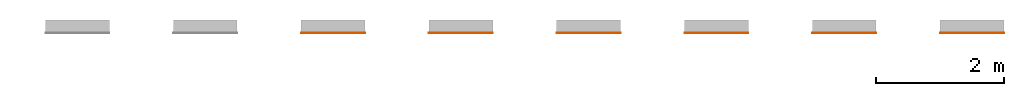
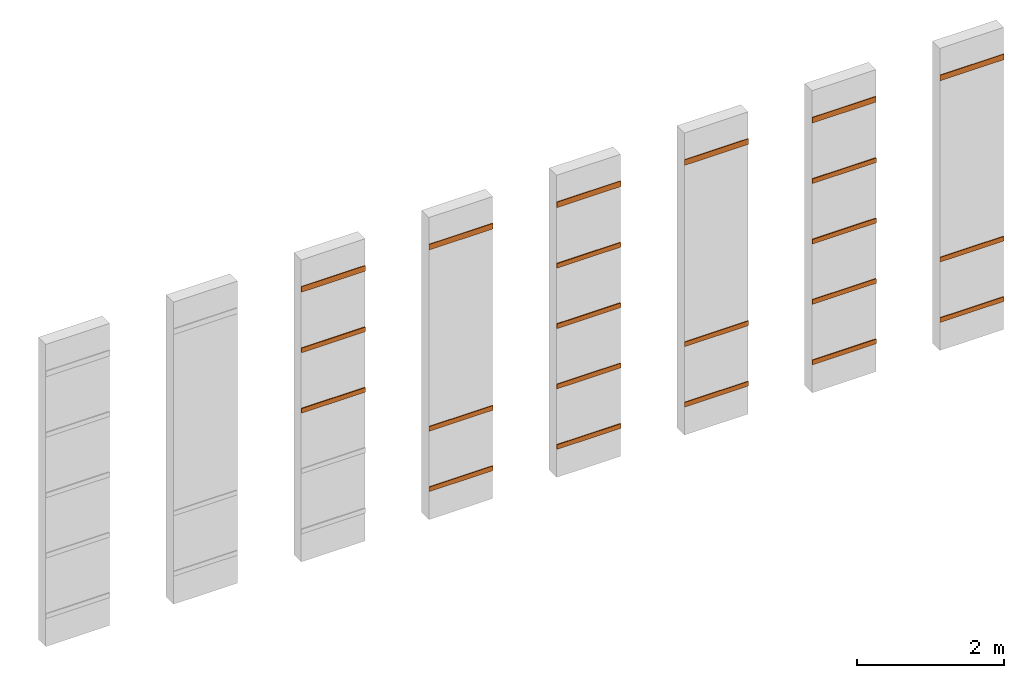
# One storey, part 3 of 3: 22 proxies.
"""IFC2X3 building model written with IfcOpenShell, lengths in millimetres."""

from ifc_helpers import new_model, entity, si_unit, converted_unit, derived_unit, direction, frame, frame_2d, origin, place, context, subcontext, project, spatial, polyline, circle_curve, parameter, trimmed, segment, composite_curve, outline, extrude, type_object, element, save


model = new_model("IFC2X3")

# Units and contexts
model_context = context("Model", 3, precision=0.01, world=origin(), true_north=direction((6.12303176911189e-17, 1.0)))
body_context = subcontext(model_context, "Body", "Model", "MODEL_VIEW")
ifc_project = project(units=[si_unit("LENGTHUNIT", "METRE", prefix="MILLI"), si_unit("AREAUNIT", "SQUARE_METRE"), si_unit("VOLUMEUNIT", "CUBIC_METRE"), converted_unit("PLANEANGLEUNIT", "DEGREE", entity("IfcRatioMeasure", 0.0174532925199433), si_unit("PLANEANGLEUNIT", "RADIAN"), dimensions=[0, 0, 0, 0, 0, 0, 0]), si_unit("MASSUNIT", "GRAM", prefix="KILO"), derived_unit("MASSDENSITYUNIT", [(si_unit("MASSUNIT", "GRAM", prefix="KILO"), 1), (si_unit("LENGTHUNIT", "METRE"), -3)]), derived_unit("MOMENTOFINERTIAUNIT", [(si_unit("LENGTHUNIT", "METRE"), 4)]), si_unit("TIMEUNIT", "SECOND"), si_unit("FREQUENCYUNIT", "HERTZ"), si_unit("THERMODYNAMICTEMPERATUREUNIT", "DEGREE_CELSIUS"), derived_unit("THERMALTRANSMITTANCEUNIT", [(si_unit("MASSUNIT", "GRAM", prefix="KILO"), 1), (si_unit("THERMODYNAMICTEMPERATUREUNIT", "KELVIN"), -1), (si_unit("TIMEUNIT", "SECOND"), -3)]), derived_unit("VOLUMETRICFLOWRATEUNIT", [(si_unit("LENGTHUNIT", "METRE"), 3), (si_unit("TIMEUNIT", "SECOND"), -1)]), si_unit("ELECTRICCURRENTUNIT", "AMPERE"), si_unit("ELECTRICVOLTAGEUNIT", "VOLT"), si_unit("POWERUNIT", "WATT"), si_unit("FORCEUNIT", "NEWTON", prefix="KILO"), si_unit("ILLUMINANCEUNIT", "LUX"), si_unit("LUMINOUSFLUXUNIT", "LUMEN"), si_unit("LUMINOUSINTENSITYUNIT", "CANDELA"), derived_unit("USERDEFINED", [(si_unit("MASSUNIT", "GRAM", prefix="KILO"), -1), (si_unit("LENGTHUNIT", "METRE"), -2), (si_unit("TIMEUNIT", "SECOND"), 3), (si_unit("LUMINOUSFLUXUNIT", "LUMEN"), 1)]), derived_unit("LINEARVELOCITYUNIT", [(si_unit("LENGTHUNIT", "METRE"), 1), (si_unit("TIMEUNIT", "SECOND"), -1)]), si_unit("PRESSUREUNIT", "PASCAL"), derived_unit("USERDEFINED", [(si_unit("LENGTHUNIT", "METRE"), -2), (si_unit("MASSUNIT", "GRAM", prefix="KILO"), 1), (si_unit("TIMEUNIT", "SECOND"), -2)]), derived_unit("LINEARFORCEUNIT", [(si_unit("MASSUNIT", "GRAM", prefix="KILO"), 1), (si_unit("LENGTHUNIT", "METRE"), 1), (si_unit("TIMEUNIT", "SECOND"), -2), (si_unit("LENGTHUNIT", "METRE"), -1)]), derived_unit("PLANARFORCEUNIT", [(si_unit("MASSUNIT", "GRAM", prefix="KILO"), 1), (si_unit("LENGTHUNIT", "METRE"), 1), (si_unit("TIMEUNIT", "SECOND"), -2), (si_unit("LENGTHUNIT", "METRE"), -2)])], contexts=[model_context])

# Site, building, storey
site_placement = place(None, origin())
site = spatial("IfcSite", under=ifc_project, at=site_placement, Name="Default", CompositionType="ELEMENT")
building_placement = place(site_placement, origin())
building = spatial("IfcBuilding", under=site, at=building_placement, CompositionType="ELEMENT")
storey_placement = place(building_placement, origin())
storey = spatial("IfcBuildingStorey", under=building, at=storey_placement, Name="Level 1", CompositionType="ELEMENT", Elevation=0.0)

# Proxies
building_element_proxy_type_1 = type_object("IfcBuildingElementProxyType", Name="Wall Sweep:REVIGRÉS-URBAN-RB-8X90-RECT-FOG", PredefinedType="NOTDEFINED")
proxy_1_placement = place(storey_placement, origin())
element("IfcBuildingElementProxy", 1, at=proxy_1_placement, inside=storey, type_object=building_element_proxy_type_1, Name="Wall Sweep:REVIGRÉS-URBAN-RB-8X90-RECT-FOG", ObjectType="Wall Sweep:REVIGRÉS-URBAN-RB-8X90-RECT-FOG", context=body_context, shape_type="SweptSolid", body=[
    extrude(outline(composite_curve([segment(polyline([(-37.375, -5.25), (42.625, -5.25)]), True, "CONTINUOUS"), segment(trimmed(circle_curve(frame_2d((32.1250000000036, -5.25), x_axis=(0.0, 1.0)), 10.4999999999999), [parameter(270.0)], [parameter(0.0)], True, "PARAMETER"), True, "CONTINUOUS"), segment(polyline([(32.1250000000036, 5.25), (-37.375, 5.25)]), True, "CONTINUOUS"), segment(polyline([(-37.375, 5.25), (-37.375, -5.25)]), True, "CONTINUOUS")], self_intersect=False)), frame((17592.0023157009, -6978.36532249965, -23642.1029793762), z_axis=(1.0, 0.0, 0.0), x_axis=(0.0, 0.0, 1.0)), (0.0, 0.0, 1.0), 1000.0),
])
building_element_proxy_type_2 = type_object("IfcBuildingElementProxyType", Name="Wall Sweep:REVIGRÉS-URBAN-RB-8X120-RECT-FOG", PredefinedType="NOTDEFINED")
proxy_2_placement = place(storey_placement, origin())
element("IfcBuildingElementProxy", 2, at=proxy_2_placement, inside=storey, type_object=building_element_proxy_type_2, Name="Wall Sweep:REVIGRÉS-URBAN-RB-8X120-RECT-FOG", ObjectType="Wall Sweep:REVIGRÉS-URBAN-RB-8X120-RECT-FOG", context=body_context, shape_type="SweptSolid", body=[
    extrude(outline(composite_curve([segment(polyline([(-37.5499999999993, -4.90000000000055), (42.4500000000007, -4.90000000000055)]), True, "CONTINUOUS"), segment(trimmed(circle_curve(frame_2d((32.6500000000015, -4.90000000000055), x_axis=(0.0, 1.0)), 9.79999999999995), [parameter(270.0)], [parameter(0.0)], True, "PARAMETER"), True, "CONTINUOUS"), segment(polyline([(32.6500000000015, 4.89999999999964), (-37.5499999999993, 4.89999999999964)]), True, "CONTINUOUS"), segment(polyline([(-37.5499999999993, 4.89999999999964), (-37.5499999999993, -4.90000000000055)]), True, "CONTINUOUS")], self_intersect=False)), frame((17592.0023157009, -6978.01532249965, -22641.9279793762), z_axis=(1.0, 0.0, 0.0), x_axis=(0.0, 0.0, 1.0)), (0.0, 0.0, 1.0), 1000.0),
])
building_element_proxy_type_3 = type_object("IfcBuildingElementProxyType", Name="Wall Sweep:REVIGRÉS-URBAN-RB-9.5X30-RECT-FOG", PredefinedType="NOTDEFINED")
proxy_3_placement = place(storey_placement, origin())
element("IfcBuildingElementProxy", 3, at=proxy_3_placement, inside=storey, type_object=building_element_proxy_type_3, Name="Wall Sweep:REVIGRÉS-URBAN-RB-9.5X30-RECT-FOG", ObjectType="Wall Sweep:REVIGRÉS-URBAN-RB-9.5X30-RECT-FOG", context=body_context, shape_type="SweptSolid", body=[
    extrude(outline(composite_curve([segment(polyline([(-45.5749999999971, -3.85000000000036), (49.4250000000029, -3.85000000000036)]), True, "CONTINUOUS"), segment(trimmed(circle_curve(frame_2d((41.7250000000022, -3.85000000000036), x_axis=(0.0, 1.0)), 7.69999999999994), [parameter(270.0)], [parameter(0.0)], True, "PARAMETER"), True, "CONTINUOUS"), segment(polyline([(41.7250000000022, 3.85000000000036), (-45.5749999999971, 3.85000000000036)]), True, "CONTINUOUS"), segment(polyline([(-45.5749999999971, 3.85000000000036), (-45.5749999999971, -3.85000000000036)]), True, "CONTINUOUS")], self_intersect=False)), frame((17592.0023157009, -6976.96532249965, -21633.9029793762), z_axis=(1.0, 0.0, 0.0), x_axis=(0.0, 0.0, 1.0)), (0.0, 0.0, 1.0), 1000.0),
])
building_element_proxy_type_4 = type_object("IfcBuildingElementProxyType", Name="Wall Sweep:REVIGRÉS-URBAN-RB-8X45-NAT-FOG", PredefinedType="NOTDEFINED")
proxy_4_placement = place(storey_placement, origin())
element("IfcBuildingElementProxy", 4, at=proxy_4_placement, inside=storey, type_object=building_element_proxy_type_4, Name="Wall Sweep:REVIGRÉS-URBAN-RB-8X45-NAT-FOG", ObjectType="Wall Sweep:REVIGRÉS-URBAN-RB-8X45-NAT-FOG", context=body_context, shape_type="SweptSolid", body=[
    extrude(outline(composite_curve([segment(polyline([(-37.8750000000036, -4.25), (42.1249999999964, -4.25)]), True, "CONTINUOUS"), segment(trimmed(circle_curve(frame_2d((33.625, -4.25), x_axis=(0.0, 1.0)), 8.49999999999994), [parameter(270.0)], [parameter(0.0)], True, "PARAMETER"), True, "CONTINUOUS"), segment(polyline([(33.625, 4.25), (-37.8750000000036, 4.25)]), True, "CONTINUOUS"), segment(polyline([(-37.8750000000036, 4.25), (-37.8750000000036, -4.25)]), True, "CONTINUOUS")], self_intersect=False)), frame((19592.0023157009, -6977.36532249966, -25641.6029793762), z_axis=(1.0, 0.0, 0.0), x_axis=(0.0, 0.0, 1.0)), (0.0, 0.0, 1.0), 1000.0),
])
building_element_proxy_type_5 = type_object("IfcBuildingElementProxyType", Name="Wall Sweep:REVIGRÉS-URBAN-RB-8X60-NAT-FOG", PredefinedType="NOTDEFINED")
proxy_5_placement = place(storey_placement, origin())
element("IfcBuildingElementProxy", 5, at=proxy_5_placement, inside=storey, type_object=building_element_proxy_type_5, Name="Wall Sweep:REVIGRÉS-URBAN-RB-8X60-NAT-FOG", ObjectType="Wall Sweep:REVIGRÉS-URBAN-RB-8X60-NAT-FOG", context=body_context, shape_type="SweptSolid", body=[
    extrude(outline(composite_curve([segment(polyline([(-37.8749999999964, -4.25), (42.1250000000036, -4.25)]), True, "CONTINUOUS"), segment(trimmed(circle_curve(frame_2d((33.6250000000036, -4.25), x_axis=(0.0, 1.0)), 8.49999999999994), [parameter(270.0)], [parameter(0.0)], True, "PARAMETER"), True, "CONTINUOUS"), segment(polyline([(33.6250000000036, 4.25), (-37.8749999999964, 4.25)]), True, "CONTINUOUS"), segment(polyline([(-37.8749999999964, 4.25), (-37.8749999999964, -4.25)]), True, "CONTINUOUS")], self_intersect=False)), frame((19592.0023157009, -6977.36532249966, -24641.6029793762), z_axis=(1.0, 0.0, 0.0), x_axis=(0.0, 0.0, 1.0)), (0.0, 0.0, 1.0), 1000.0),
])
building_element_proxy_type_6 = type_object("IfcBuildingElementProxyType", Name="Wall Sweep:REVIGRÉS-URBAN-RB-9.5X30-NAT-FOG", PredefinedType="NOTDEFINED")
proxy_6_placement = place(storey_placement, origin())
element("IfcBuildingElementProxy", 6, at=proxy_6_placement, inside=storey, type_object=building_element_proxy_type_6, Name="Wall Sweep:REVIGRÉS-URBAN-RB-9.5X30-NAT-FOG", ObjectType="Wall Sweep:REVIGRÉS-URBAN-RB-9.5X30-NAT-FOG", context=body_context, shape_type="SweptSolid", body=[
    extrude(outline(composite_curve([segment(polyline([(-45.5749999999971, -3.84999999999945), (49.4250000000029, -3.84999999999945)]), True, "CONTINUOUS"), segment(trimmed(circle_curve(frame_2d((41.7250000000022, -3.84999999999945), x_axis=(0.0, 1.0)), 7.69999999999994), [parameter(270.0)], [parameter(0.0)], True, "PARAMETER"), True, "CONTINUOUS"), segment(polyline([(41.7250000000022, 3.85000000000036), (-45.5749999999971, 3.85000000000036)]), True, "CONTINUOUS"), segment(polyline([(-45.5749999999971, 3.85000000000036), (-45.5749999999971, -3.84999999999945)]), True, "CONTINUOUS")], self_intersect=False)), frame((19592.0023157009, -6976.96532249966, -21633.9029793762), z_axis=(1.0, 0.0, 0.0), x_axis=(0.0, 0.0, 1.0)), (0.0, 0.0, 1.0), 1000.0),
])
building_element_proxy_type_7 = type_object("IfcBuildingElementProxyType", Name="Wall Sweep:REVIGRÉS-URBAN-RB-8X45-RECT-GRIS", PredefinedType="NOTDEFINED")
proxy_7_placement = place(storey_placement, origin())
element("IfcBuildingElementProxy", 7, at=proxy_7_placement, inside=storey, type_object=building_element_proxy_type_7, Name="Wall Sweep:REVIGRÉS-URBAN-RB-8X45-RECT-GRIS", ObjectType="Wall Sweep:REVIGRÉS-URBAN-RB-8X45-RECT-GRIS", context=body_context, shape_type="SweptSolid", body=[
    extrude(outline(composite_curve([segment(polyline([(-37.5500000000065, -4.89999999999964), (42.4499999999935, -4.89999999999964)]), True, "CONTINUOUS"), segment(trimmed(circle_curve(frame_2d((32.6499999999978, -4.89999999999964), x_axis=(0.0, 1.0)), 9.79999999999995), [parameter(270.0)], [parameter(0.0)], True, "PARAMETER"), True, "CONTINUOUS"), segment(polyline([(32.6499999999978, 4.89999999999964), (-37.5500000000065, 4.89999999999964)]), True, "CONTINUOUS"), segment(polyline([(-37.5500000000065, 4.89999999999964), (-37.5500000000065, -4.89999999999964)]), True, "CONTINUOUS")], self_intersect=False)), frame((21592.0023157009, -6978.01532249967, -25641.9279793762), z_axis=(1.0, 0.0, 0.0), x_axis=(0.0, 0.0, 1.0)), (0.0, 0.0, 1.0), 1000.0),
])
building_element_proxy_type_8 = type_object("IfcBuildingElementProxyType", Name="Wall Sweep:REVIGRÉS-URBAN-RB-8X60-RECT-GRIS", PredefinedType="NOTDEFINED")
proxy_8_placement = place(storey_placement, origin())
element("IfcBuildingElementProxy", 8, at=proxy_8_placement, inside=storey, type_object=building_element_proxy_type_8, Name="Wall Sweep:REVIGRÉS-URBAN-RB-8X60-RECT-GRIS", ObjectType="Wall Sweep:REVIGRÉS-URBAN-RB-8X60-RECT-GRIS", context=body_context, shape_type="SweptSolid", body=[
    extrude(outline(composite_curve([segment(polyline([(-37.8749999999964, -4.25), (42.1250000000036, -4.25)]), True, "CONTINUOUS"), segment(trimmed(circle_curve(frame_2d((33.6250000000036, -4.25), x_axis=(0.0, 1.0)), 8.49999999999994), [parameter(270.0)], [parameter(0.0)], True, "PARAMETER"), True, "CONTINUOUS"), segment(polyline([(33.6250000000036, 4.25), (-37.8749999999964, 4.25)]), True, "CONTINUOUS"), segment(polyline([(-37.8749999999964, 4.25), (-37.8749999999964, -4.25)]), True, "CONTINUOUS")], self_intersect=False)), frame((21592.0023157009, -6977.36532249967, -24641.6029793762), z_axis=(1.0, 0.0, 0.0), x_axis=(0.0, 0.0, 1.0)), (0.0, 0.0, 1.0), 1000.0),
])
building_element_proxy_type_9 = type_object("IfcBuildingElementProxyType", Name="Wall Sweep:REVIGRÉS-URBAN-RB-8X90-RECT-GRIS", PredefinedType="NOTDEFINED")
proxy_9_placement = place(storey_placement, origin())
element("IfcBuildingElementProxy", 9, at=proxy_9_placement, inside=storey, type_object=building_element_proxy_type_9, Name="Wall Sweep:REVIGRÉS-URBAN-RB-8X90-RECT-GRIS", ObjectType="Wall Sweep:REVIGRÉS-URBAN-RB-8X90-RECT-GRIS", context=body_context, shape_type="SweptSolid", body=[
    extrude(outline(composite_curve([segment(polyline([(-37.375, -5.25), (42.625, -5.25)]), True, "CONTINUOUS"), segment(trimmed(circle_curve(frame_2d((32.1250000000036, -5.25), x_axis=(0.0, 1.0)), 10.4999999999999), [parameter(270.0)], [parameter(0.0)], True, "PARAMETER"), True, "CONTINUOUS"), segment(polyline([(32.1250000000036, 5.25), (-37.375, 5.25)]), True, "CONTINUOUS"), segment(polyline([(-37.375, 5.25), (-37.375, -5.25)]), True, "CONTINUOUS")], self_intersect=False)), frame((21592.0023157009, -6978.36532249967, -23642.1029793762), z_axis=(1.0, 0.0, 0.0), x_axis=(0.0, 0.0, 1.0)), (0.0, 0.0, 1.0), 1000.0),
])
building_element_proxy_type_10 = type_object("IfcBuildingElementProxyType", Name="Wall Sweep:REVIGRÉS-URBAN-RB-8X120-RECT-GRIS", PredefinedType="NOTDEFINED")
proxy_10_placement = place(storey_placement, origin())
element("IfcBuildingElementProxy", 10, at=proxy_10_placement, inside=storey, type_object=building_element_proxy_type_10, Name="Wall Sweep:REVIGRÉS-URBAN-RB-8X120-RECT-GRIS", ObjectType="Wall Sweep:REVIGRÉS-URBAN-RB-8X120-RECT-GRIS", context=body_context, shape_type="SweptSolid", body=[
    extrude(outline(composite_curve([segment(polyline([(-37.5499999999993, -4.89999999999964), (42.4500000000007, -4.89999999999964)]), True, "CONTINUOUS"), segment(trimmed(circle_curve(frame_2d((32.6500000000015, -4.89999999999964), x_axis=(0.0, 1.0)), 9.79999999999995), [parameter(270.0)], [parameter(0.0)], True, "PARAMETER"), True, "CONTINUOUS"), segment(polyline([(32.6500000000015, 4.89999999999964), (-37.5499999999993, 4.89999999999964)]), True, "CONTINUOUS"), segment(polyline([(-37.5499999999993, 4.89999999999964), (-37.5499999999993, -4.89999999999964)]), True, "CONTINUOUS")], self_intersect=False)), frame((21592.0023157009, -6978.01532249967, -22641.9279793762), z_axis=(1.0, 0.0, 0.0), x_axis=(0.0, 0.0, 1.0)), (0.0, 0.0, 1.0), 1000.0),
])
building_element_proxy_type_11 = type_object("IfcBuildingElementProxyType", Name="Wall Sweep:REVIGRÉS-URBAN-RB-9.5X30-RECT-GRIS", PredefinedType="NOTDEFINED")
proxy_11_placement = place(storey_placement, origin())
element("IfcBuildingElementProxy", 11, at=proxy_11_placement, inside=storey, type_object=building_element_proxy_type_11, Name="Wall Sweep:REVIGRÉS-URBAN-RB-9.5X30-RECT-GRIS", ObjectType="Wall Sweep:REVIGRÉS-URBAN-RB-9.5X30-RECT-GRIS", context=body_context, shape_type="SweptSolid", body=[
    extrude(outline(composite_curve([segment(polyline([(-45.5749999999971, -3.85000000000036), (49.4250000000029, -3.85000000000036)]), True, "CONTINUOUS"), segment(trimmed(circle_curve(frame_2d((41.7250000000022, -3.85000000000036), x_axis=(0.0, 1.0)), 7.69999999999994), [parameter(270.0)], [parameter(0.0)], True, "PARAMETER"), True, "CONTINUOUS"), segment(polyline([(41.7250000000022, 3.84999999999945), (-45.5749999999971, 3.84999999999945)]), True, "CONTINUOUS"), segment(polyline([(-45.5749999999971, 3.84999999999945), (-45.5749999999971, -3.85000000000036)]), True, "CONTINUOUS")], self_intersect=False)), frame((21592.0023157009, -6976.96532249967, -21633.9029793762), z_axis=(1.0, 0.0, 0.0), x_axis=(0.0, 0.0, 1.0)), (0.0, 0.0, 1.0), 1000.0),
])
building_element_proxy_type_12 = type_object("IfcBuildingElementProxyType", Name="Wall Sweep:REVIGRÉS-URBAN-RB-8X45-NAT-GRIS", PredefinedType="NOTDEFINED")
proxy_12_placement = place(storey_placement, origin())
element("IfcBuildingElementProxy", 12, at=proxy_12_placement, inside=storey, type_object=building_element_proxy_type_12, Name="Wall Sweep:REVIGRÉS-URBAN-RB-8X45-NAT-GRIS", ObjectType="Wall Sweep:REVIGRÉS-URBAN-RB-8X45-NAT-GRIS", context=body_context, shape_type="SweptSolid", body=[
    extrude(outline(composite_curve([segment(polyline([(-37.8750000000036, -4.25), (42.1249999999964, -4.25)]), True, "CONTINUOUS"), segment(trimmed(circle_curve(frame_2d((33.625, -4.25), x_axis=(0.0, 1.0)), 8.49999999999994), [parameter(270.0)], [parameter(0.0)], True, "PARAMETER"), True, "CONTINUOUS"), segment(polyline([(33.625, 4.25), (-37.8750000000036, 4.25)]), True, "CONTINUOUS"), segment(polyline([(-37.8750000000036, 4.25), (-37.8750000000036, -4.25)]), True, "CONTINUOUS")], self_intersect=False)), frame((23592.0023157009, -6977.36532249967, -25641.6029793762), z_axis=(1.0, 0.0, 0.0), x_axis=(0.0, 0.0, 1.0)), (0.0, 0.0, 1.0), 1000.0),
])
building_element_proxy_type_13 = type_object("IfcBuildingElementProxyType", Name="Wall Sweep:REVIGRÉS-URBAN-RB-8X60-NAT-GRIS", PredefinedType="NOTDEFINED")
proxy_13_placement = place(storey_placement, origin())
element("IfcBuildingElementProxy", 13, at=proxy_13_placement, inside=storey, type_object=building_element_proxy_type_13, Name="Wall Sweep:REVIGRÉS-URBAN-RB-8X60-NAT-GRIS", ObjectType="Wall Sweep:REVIGRÉS-URBAN-RB-8X60-NAT-GRIS", context=body_context, shape_type="SweptSolid", body=[
    extrude(outline(composite_curve([segment(polyline([(-37.8749999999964, -4.25), (42.1250000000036, -4.25)]), True, "CONTINUOUS"), segment(trimmed(circle_curve(frame_2d((33.6250000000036, -4.25), x_axis=(0.0, 1.0)), 8.49999999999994), [parameter(270.0)], [parameter(0.0)], True, "PARAMETER"), True, "CONTINUOUS"), segment(polyline([(33.6250000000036, 4.25), (-37.8749999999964, 4.25)]), True, "CONTINUOUS"), segment(polyline([(-37.8749999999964, 4.25), (-37.8749999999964, -4.25)]), True, "CONTINUOUS")], self_intersect=False)), frame((23592.0023157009, -6977.36532249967, -24641.6029793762), z_axis=(1.0, 0.0, 0.0), x_axis=(0.0, 0.0, 1.0)), (0.0, 0.0, 1.0), 1000.0),
])
building_element_proxy_type_14 = type_object("IfcBuildingElementProxyType", Name="Wall Sweep:REVIGRÉS-URBAN-RB-9.5X30-NAT-GRIS", PredefinedType="NOTDEFINED")
proxy_14_placement = place(storey_placement, origin())
element("IfcBuildingElementProxy", 14, at=proxy_14_placement, inside=storey, type_object=building_element_proxy_type_14, Name="Wall Sweep:REVIGRÉS-URBAN-RB-9.5X30-NAT-GRIS", ObjectType="Wall Sweep:REVIGRÉS-URBAN-RB-9.5X30-NAT-GRIS", context=body_context, shape_type="SweptSolid", body=[
    extrude(outline(composite_curve([segment(polyline([(-45.5749999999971, -3.85000000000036), (49.4250000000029, -3.85000000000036)]), True, "CONTINUOUS"), segment(trimmed(circle_curve(frame_2d((41.7250000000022, -3.85000000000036), x_axis=(0.0, 1.0)), 7.69999999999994), [parameter(270.0)], [parameter(0.0)], True, "PARAMETER"), True, "CONTINUOUS"), segment(polyline([(41.7250000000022, 3.85000000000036), (-45.5749999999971, 3.85000000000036)]), True, "CONTINUOUS"), segment(polyline([(-45.5749999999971, 3.85000000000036), (-45.5749999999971, -3.85000000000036)]), True, "CONTINUOUS")], self_intersect=False)), frame((23592.0023157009, -6976.96532249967, -21633.9029793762), z_axis=(1.0, 0.0, 0.0), x_axis=(0.0, 0.0, 1.0)), (0.0, 0.0, 1.0), 1000.0),
])
building_element_proxy_type_15 = type_object("IfcBuildingElementProxyType", Name="Wall Sweep:REVIGRÉS-URBAN-RB-8X45-RECT-OFFWHITE", PredefinedType="NOTDEFINED")
proxy_15_placement = place(storey_placement, origin())
element("IfcBuildingElementProxy", 15, at=proxy_15_placement, inside=storey, type_object=building_element_proxy_type_15, Name="Wall Sweep:REVIGRÉS-URBAN-RB-8X45-RECT-OFFWHITE", ObjectType="Wall Sweep:REVIGRÉS-URBAN-RB-8X45-RECT-OFFWHITE", context=body_context, shape_type="SweptSolid", body=[
    extrude(outline(composite_curve([segment(polyline([(-37.5500000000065, -4.89999999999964), (42.4499999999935, -4.89999999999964)]), True, "CONTINUOUS"), segment(trimmed(circle_curve(frame_2d((32.6499999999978, -4.89999999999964), x_axis=(0.0, 1.0)), 9.79999999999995), [parameter(270.0)], [parameter(0.0)], True, "PARAMETER"), True, "CONTINUOUS"), segment(polyline([(32.6499999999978, 4.90000000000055), (-37.5500000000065, 4.90000000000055)]), True, "CONTINUOUS"), segment(polyline([(-37.5500000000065, 4.90000000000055), (-37.5500000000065, -4.89999999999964)]), True, "CONTINUOUS")], self_intersect=False)), frame((25592.0023157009, -6978.01532249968, -25641.9279793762), z_axis=(1.0, 0.0, 0.0), x_axis=(0.0, 0.0, 1.0)), (0.0, 0.0, 1.0), 1000.0),
])
building_element_proxy_type_16 = type_object("IfcBuildingElementProxyType", Name="Wall Sweep:REVIGRÉS-URBAN-RB-8X60-RECT-OFFWHITE", PredefinedType="NOTDEFINED")
proxy_16_placement = place(storey_placement, origin())
element("IfcBuildingElementProxy", 16, at=proxy_16_placement, inside=storey, type_object=building_element_proxy_type_16, Name="Wall Sweep:REVIGRÉS-URBAN-RB-8X60-RECT-OFFWHITE", ObjectType="Wall Sweep:REVIGRÉS-URBAN-RB-8X60-RECT-OFFWHITE", context=body_context, shape_type="SweptSolid", body=[
    extrude(outline(composite_curve([segment(polyline([(-37.8749999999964, -4.25), (42.1250000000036, -4.25)]), True, "CONTINUOUS"), segment(trimmed(circle_curve(frame_2d((33.6250000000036, -4.25), x_axis=(0.0, 1.0)), 8.49999999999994), [parameter(270.0)], [parameter(0.0)], True, "PARAMETER"), True, "CONTINUOUS"), segment(polyline([(33.6250000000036, 4.25), (-37.8749999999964, 4.25)]), True, "CONTINUOUS"), segment(polyline([(-37.8749999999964, 4.25), (-37.8749999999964, -4.25)]), True, "CONTINUOUS")], self_intersect=False)), frame((25592.0023157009, -6977.36532249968, -24641.6029793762), z_axis=(1.0, 0.0, 0.0), x_axis=(0.0, 0.0, 1.0)), (0.0, 0.0, 1.0), 1000.0),
])
building_element_proxy_type_17 = type_object("IfcBuildingElementProxyType", Name="Wall Sweep:REVIGRÉS-URBAN-RB-8X90-RECT-OFFWHITE", PredefinedType="NOTDEFINED")
proxy_17_placement = place(storey_placement, origin())
element("IfcBuildingElementProxy", 17, at=proxy_17_placement, inside=storey, type_object=building_element_proxy_type_17, Name="Wall Sweep:REVIGRÉS-URBAN-RB-8X90-RECT-OFFWHITE", ObjectType="Wall Sweep:REVIGRÉS-URBAN-RB-8X90-RECT-OFFWHITE", context=body_context, shape_type="SweptSolid", body=[
    extrude(outline(composite_curve([segment(polyline([(-37.375, -5.25), (42.625, -5.25)]), True, "CONTINUOUS"), segment(trimmed(circle_curve(frame_2d((32.1250000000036, -5.25), x_axis=(0.0, 1.0)), 10.4999999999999), [parameter(270.0)], [parameter(0.0)], True, "PARAMETER"), True, "CONTINUOUS"), segment(polyline([(32.1250000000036, 5.25), (-37.375, 5.25)]), True, "CONTINUOUS"), segment(polyline([(-37.375, 5.25), (-37.375, -5.25)]), True, "CONTINUOUS")], self_intersect=False)), frame((25592.0023157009, -6978.36532249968, -23642.1029793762), z_axis=(1.0, 0.0, 0.0), x_axis=(0.0, 0.0, 1.0)), (0.0, 0.0, 1.0), 1000.0),
])
building_element_proxy_type_18 = type_object("IfcBuildingElementProxyType", Name="Wall Sweep:REVIGRÉS-URBAN-RB-8X120-RECT-OFFWHITE", PredefinedType="NOTDEFINED")
proxy_18_placement = place(storey_placement, origin())
element("IfcBuildingElementProxy", 18, at=proxy_18_placement, inside=storey, type_object=building_element_proxy_type_18, Name="Wall Sweep:REVIGRÉS-URBAN-RB-8X120-RECT-OFFWHITE", ObjectType="Wall Sweep:REVIGRÉS-URBAN-RB-8X120-RECT-OFFWHITE", context=body_context, shape_type="SweptSolid", body=[
    extrude(outline(composite_curve([segment(polyline([(-37.5499999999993, -4.89999999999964), (42.4500000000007, -4.89999999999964)]), True, "CONTINUOUS"), segment(trimmed(circle_curve(frame_2d((32.6500000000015, -4.89999999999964), x_axis=(0.0, 1.0)), 9.79999999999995), [parameter(270.0)], [parameter(0.0)], True, "PARAMETER"), True, "CONTINUOUS"), segment(polyline([(32.6500000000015, 4.90000000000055), (-37.5499999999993, 4.90000000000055)]), True, "CONTINUOUS"), segment(polyline([(-37.5499999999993, 4.90000000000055), (-37.5499999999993, -4.89999999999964)]), True, "CONTINUOUS")], self_intersect=False)), frame((25592.0023157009, -6978.01532249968, -22641.9279793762), z_axis=(1.0, 0.0, 0.0), x_axis=(0.0, 0.0, 1.0)), (0.0, 0.0, 1.0), 1000.0),
])
building_element_proxy_type_19 = type_object("IfcBuildingElementProxyType", Name="Wall Sweep:REVIGRÉS-URBAN-RB-9.5X30-RECT-OFFWHITE", PredefinedType="NOTDEFINED")
proxy_19_placement = place(storey_placement, origin())
element("IfcBuildingElementProxy", 19, at=proxy_19_placement, inside=storey, type_object=building_element_proxy_type_19, Name="Wall Sweep:REVIGRÉS-URBAN-RB-9.5X30-RECT-OFFWHITE", ObjectType="Wall Sweep:REVIGRÉS-URBAN-RB-9.5X30-RECT-OFFWHITE", context=body_context, shape_type="SweptSolid", body=[
    extrude(outline(composite_curve([segment(polyline([(-45.5749999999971, -3.85000000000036), (49.4250000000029, -3.85000000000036)]), True, "CONTINUOUS"), segment(trimmed(circle_curve(frame_2d((41.7250000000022, -3.85000000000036), x_axis=(0.0, 1.0)), 7.69999999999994), [parameter(270.0)], [parameter(0.0)], True, "PARAMETER"), True, "CONTINUOUS"), segment(polyline([(41.7250000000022, 3.85000000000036), (-45.5749999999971, 3.85000000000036)]), True, "CONTINUOUS"), segment(polyline([(-45.5749999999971, 3.85000000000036), (-45.5749999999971, -3.85000000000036)]), True, "CONTINUOUS")], self_intersect=False)), frame((25592.0023157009, -6976.96532249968, -21633.9029793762), z_axis=(1.0, 0.0, 0.0), x_axis=(0.0, 0.0, 1.0)), (0.0, 0.0, 1.0), 1000.0),
])
building_element_proxy_type_20 = type_object("IfcBuildingElementProxyType", Name="Wall Sweep:REVIGRÉS-URBAN-RB-8X45-NAT-OFFWHITE", PredefinedType="NOTDEFINED")
proxy_20_placement = place(storey_placement, origin())
element("IfcBuildingElementProxy", 20, at=proxy_20_placement, inside=storey, type_object=building_element_proxy_type_20, Name="Wall Sweep:REVIGRÉS-URBAN-RB-8X45-NAT-OFFWHITE", ObjectType="Wall Sweep:REVIGRÉS-URBAN-RB-8X45-NAT-OFFWHITE", context=body_context, shape_type="SweptSolid", body=[
    extrude(outline(composite_curve([segment(polyline([(-37.8750000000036, -4.25), (42.1249999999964, -4.25)]), True, "CONTINUOUS"), segment(trimmed(circle_curve(frame_2d((33.625, -4.25), x_axis=(0.0, 1.0)), 8.49999999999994), [parameter(270.0)], [parameter(0.0)], True, "PARAMETER"), True, "CONTINUOUS"), segment(polyline([(33.625, 4.25), (-37.8750000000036, 4.25)]), True, "CONTINUOUS"), segment(polyline([(-37.8750000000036, 4.25), (-37.8750000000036, -4.25)]), True, "CONTINUOUS")], self_intersect=False)), frame((27592.0023157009, -6977.36532249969, -25641.6029793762), z_axis=(1.0, 0.0, 0.0), x_axis=(0.0, 0.0, 1.0)), (0.0, 0.0, 1.0), 1000.0),
])
building_element_proxy_type_21 = type_object("IfcBuildingElementProxyType", Name="Wall Sweep:REVIGRÉS-URBAN-RB-8X60-NAT-OFFWHITE", PredefinedType="NOTDEFINED")
proxy_21_placement = place(storey_placement, origin())
element("IfcBuildingElementProxy", 21, at=proxy_21_placement, inside=storey, type_object=building_element_proxy_type_21, Name="Wall Sweep:REVIGRÉS-URBAN-RB-8X60-NAT-OFFWHITE", ObjectType="Wall Sweep:REVIGRÉS-URBAN-RB-8X60-NAT-OFFWHITE", context=body_context, shape_type="SweptSolid", body=[
    extrude(outline(composite_curve([segment(polyline([(-37.8749999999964, -4.25), (42.1250000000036, -4.25)]), True, "CONTINUOUS"), segment(trimmed(circle_curve(frame_2d((33.6250000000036, -4.25), x_axis=(0.0, 1.0)), 8.49999999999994), [parameter(270.0)], [parameter(0.0)], True, "PARAMETER"), True, "CONTINUOUS"), segment(polyline([(33.6250000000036, 4.25), (-37.8749999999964, 4.25)]), True, "CONTINUOUS"), segment(polyline([(-37.8749999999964, 4.25), (-37.8749999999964, -4.25)]), True, "CONTINUOUS")], self_intersect=False)), frame((27592.0023157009, -6977.36532249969, -24641.6029793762), z_axis=(1.0, 0.0, 0.0), x_axis=(0.0, 0.0, 1.0)), (0.0, 0.0, 1.0), 1000.0),
])
building_element_proxy_type_22 = type_object("IfcBuildingElementProxyType", Name="Wall Sweep:REVIGRÉS-URBAN-RB-9.5X30-NAT-OFFWHITE", PredefinedType="NOTDEFINED")
proxy_22_placement = place(storey_placement, origin())
element("IfcBuildingElementProxy", 22, at=proxy_22_placement, inside=storey, type_object=building_element_proxy_type_22, Name="Wall Sweep:REVIGRÉS-URBAN-RB-9.5X30-NAT-OFFWHITE", ObjectType="Wall Sweep:REVIGRÉS-URBAN-RB-9.5X30-NAT-OFFWHITE", context=body_context, shape_type="SweptSolid", body=[
    extrude(outline(composite_curve([segment(polyline([(-45.5749999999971, -3.85000000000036), (49.4250000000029, -3.85000000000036)]), True, "CONTINUOUS"), segment(trimmed(circle_curve(frame_2d((41.7250000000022, -3.85000000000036), x_axis=(0.0, 1.0)), 7.69999999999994), [parameter(270.0)], [parameter(0.0)], True, "PARAMETER"), True, "CONTINUOUS"), segment(polyline([(41.7250000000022, 3.85000000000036), (-45.5749999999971, 3.85000000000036)]), True, "CONTINUOUS"), segment(polyline([(-45.5749999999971, 3.85000000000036), (-45.5749999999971, -3.85000000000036)]), True, "CONTINUOUS")], self_intersect=False)), frame((27592.0023157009, -6976.96532249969, -21633.9029793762), z_axis=(1.0, 0.0, 0.0), x_axis=(0.0, 0.0, 1.0)), (0.0, 0.0, 1.0), 1000.0),
])

save(model, "model.ifc")
